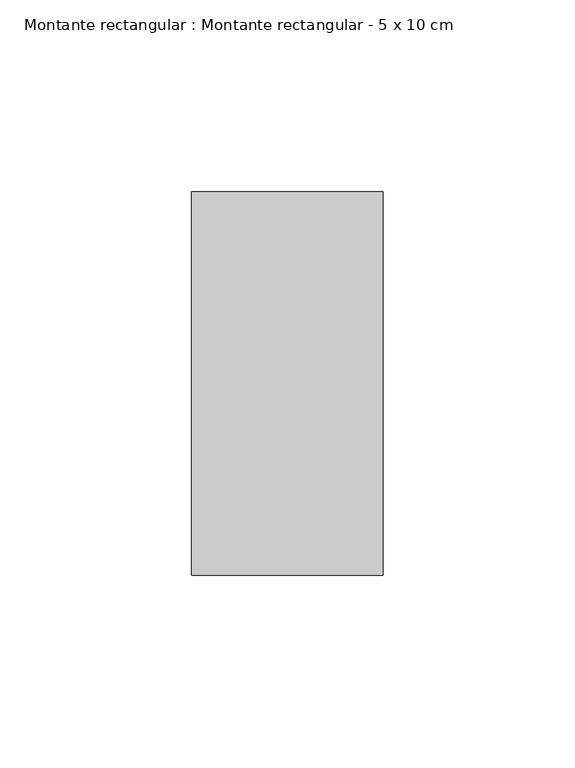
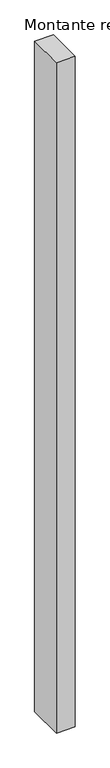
"""IFC4 building model written with IfcOpenShell, lengths in millimetres: member geometry, Montante rectangular : Montante rectangular - 5 x 10 cm."""

import ifcopenshell
import ifcopenshell.guid

model = None  # the IFC model being written
_history = None  # IfcOwnerHistory: only IFC2X3 demands one
_inside = {}  # id of a spatial element -> (the spatial element, [elements in it])
_under = {}  # id of a project, library or spatial element -> (it, [spatial elements below it])
_declared = {}  # id of a project -> (the project, [libraries it declares])
_typed = {}  # id of a type object -> (the type object, [elements of that type])
_made_of = {}  # id of a material, layer set ... -> (it, [elements and type objects made of it])


def new_model(schema):
    """Start an empty IFC model of exactly this schema.

    Asked for "IFC4X3", IfcOpenShell would pick the latest addendum, in which some entities
    have other attributes; the version numbers below select the first issue.
    IFC2X3 requires an IfcOwnerHistory on every rooted entity: one is made here for all.
    """
    global model, _history
    if schema == "IFC4X3":
        model = ifcopenshell.file(schema_version=(4, 3, 0, 0))
    else:
        model = ifcopenshell.file(schema=schema)
    _inside.clear()
    _under.clear()
    _declared.clear()
    _typed.clear()
    _made_of.clear()
    _history = None
    if model.schema == "IFC2X3":
        org = make("IfcOrganization", Name="unknown")
        user = make(
            "IfcPersonAndOrganization",
            ThePerson=make("IfcPerson", FamilyName="unknown"),
            TheOrganization=org,
        )
        app = make(
            "IfcApplication",
            ApplicationDeveloper=org,
            Version="unknown",
            ApplicationFullName="unknown",
            ApplicationIdentifier="unknown",
        )
        _history = make(
            "IfcOwnerHistory",
            OwningUser=user,
            OwningApplication=app,
            ChangeAction="ADDED",
            CreationDate=0,
        )
    return model


def make(cls, **values):
    """One entity of the class cls with the attributes given. An attribute that is None is left unset."""
    return model.create_entity(
        cls, **{name: value for name, value in values.items() if value is not None}
    )


def rooted(cls, **values):
    """An entity with a GlobalId (a new one), such as an element, a storey or a relation."""
    return make(cls, GlobalId=ifcopenshell.guid.new(), OwnerHistory=_history, **values)


def si_unit(unit_type, name, prefix=None):
    """IfcSIUnit, for example si_unit("LENGTHUNIT", "METRE", prefix="MILLI")."""
    return make("IfcSIUnit", UnitType=unit_type, Prefix=prefix, Name=name)


def assignment(units):
    """IfcUnitAssignment: the units of a project."""
    return None if units is None else make("IfcUnitAssignment", Units=units)


def point(xyz):
    """IfcCartesianPoint."""
    return None if xyz is None else make("IfcCartesianPoint", Coordinates=xyz)


def direction(xyz):
    """IfcDirection."""
    return None if xyz is None else make("IfcDirection", DirectionRatios=xyz)


def frame(location, z_axis=None, x_axis=None):
    """IfcAxis2Placement3D, a coordinate frame: its origin and axes. An axis left out is left unset."""
    return make(
        "IfcAxis2Placement3D",
        Location=point(location),
        Axis=direction(z_axis),
        RefDirection=direction(x_axis),
    )


def origin():
    """The frame at (0, 0, 0) with its axes left unset."""
    return frame((0.0, 0.0, 0.0))


def place(relative_to, where):
    """IfcLocalPlacement: puts the frame where relative to a parent placement (None: the world)."""
    return make(
        "IfcLocalPlacement", PlacementRelTo=relative_to, RelativePlacement=where
    )


def context(
    kind, dimensions, precision=None, world=None, true_north=None, identifier=None
):
    """IfcGeometricRepresentationContext, for example the 3D "Model" context."""
    return make(
        "IfcGeometricRepresentationContext",
        ContextIdentifier=identifier,
        ContextType=kind,
        CoordinateSpaceDimension=dimensions,
        Precision=precision,
        WorldCoordinateSystem=world,
        TrueNorth=true_north,
    )


def project(units=None, contexts=None):
    """IfcProject with its units and contexts."""
    return rooted(
        "IfcProject",
        Name="project",
        RepresentationContexts=contexts,
        UnitsInContext=assignment(units),
    )


def spatial(cls, under=None, at=None, **own):
    """A site, building, storey or space (cls), placed at a placement, below another one or the project."""
    s = rooted(cls, ObjectPlacement=at, **own)
    if under is not None:
        _under.setdefault(under.id(), (under, []))[1].append(s)
    return s


def polyline(points):
    """IfcPolyline through the points."""
    return make("IfcPolyline", Points=[point(p) for p in points])


def outline(outer, holes=None, kind="AREA"):
    """IfcArbitraryClosedProfileDef: a profile drawn as a closed curve; with holes, ...WithVoids."""
    if holes is None:
        return make("IfcArbitraryClosedProfileDef", ProfileType=kind, OuterCurve=outer)
    return make(
        "IfcArbitraryProfileDefWithVoids",
        ProfileType=kind,
        OuterCurve=outer,
        InnerCurves=holes,
    )


def extrude(swept, where, along, depth):
    """IfcExtrudedAreaSolid: the profile swept, set in the frame where, extruded along a direction by depth."""
    return make(
        "IfcExtrudedAreaSolid",
        SweptArea=swept,
        Position=where,
        ExtrudedDirection=direction(along),
        Depth=depth,
    )


def shape(context_of_items, identifier, shape_type, items):
    """IfcShapeRepresentation: the items that make up one representation, for example the "Body"."""
    return make(
        "IfcShapeRepresentation",
        ContextOfItems=context_of_items,
        RepresentationIdentifier=identifier,
        RepresentationType=shape_type,
        Items=items,
    )


def source(mapping_origin, context_of_items, identifier, shape_type, items):
    """IfcRepresentationMap: a shape defined once, which mapped items show again and again."""
    return make(
        "IfcRepresentationMap",
        MappingOrigin=mapping_origin,
        MappedRepresentation=shape(context_of_items, identifier, shape_type, items),
    )


def transform(
    local_origin,
    x_axis=None,
    y_axis=None,
    z_axis=None,
    scale=None,
    scale2=None,
    scale3=None,
    uniform=True,
):
    """IfcCartesianTransformationOperator3D, or its non-uniform kind. x_axis, y_axis, z_axis: its Axis1, 2, 3."""
    if uniform:
        return make(
            "IfcCartesianTransformationOperator3D",
            Axis1=direction(x_axis),
            Axis2=direction(y_axis),
            LocalOrigin=point(local_origin),
            Scale=scale,
            Axis3=direction(z_axis),
        )
    return make(
        "IfcCartesianTransformationOperator3DnonUniform",
        Axis1=direction(x_axis),
        Axis2=direction(y_axis),
        LocalOrigin=point(local_origin),
        Scale=scale,
        Axis3=direction(z_axis),
        Scale2=scale2,
        Scale3=scale3,
    )


def mapped(mapping_source, mapping_target):
    """IfcMappedItem: shows the shape of a source again, moved by a transform."""
    return make(
        "IfcMappedItem", MappingSource=mapping_source, MappingTarget=mapping_target
    )


def made_of(thing, what):
    """Note that an element or type object is made of a material, layer set ...; save() writes the relation."""
    if what is not None:
        _made_of.setdefault(what.id(), (what, []))[1].append(thing)
    return thing


def element(
    cls,
    number,
    at=None,
    inside=None,
    cuts=None,
    type_object=None,
    material=None,
    context=None,
    identifier="Body",
    shape_type=None,
    held_by="IfcProductDefinitionShape",
    body=None,
    shapes=None,
    **own,
):
    """One element of the class cls, such as IfcWall. Its Tag is "e" and its number.

    at: its placement. inside: the storey or other place that contains it. cuts: it is an
    opening in that element (IfcRelVoidsElement). A single representation is given by context,
    identifier, shape_type and body (its items); several are given by shapes. held_by: the class
    of the entity that holds the representations. save() writes the other relations.
    """
    e = rooted(cls, Tag="e%d" % number, ObjectPlacement=at, **own)
    if body is not None:
        shapes = [shape(context, identifier, shape_type, body)]
    if shapes is not None:
        e.Representation = make(held_by, Representations=shapes)
    if inside is not None:
        _inside.setdefault(inside.id(), (inside, []))[1].append(e)
    if cuts is not None:
        rooted(
            "IfcRelVoidsElement", RelatingBuildingElement=cuts, RelatedOpeningElement=e
        )
    if type_object is not None:
        _typed.setdefault(type_object.id(), (type_object, []))[1].append(e)
    return made_of(e, material)


def aggregate(whole, parts):
    """IfcRelAggregates: a whole, such as a stair, and the parts it consists of."""
    return rooted("IfcRelAggregates", RelatingObject=whole, RelatedObjects=parts)


def save(model, path):
    """Write the relations noted so far, then the file.

    IfcRelAggregates (storeys below a building ...), IfcRelContainedInSpatialStructure (elements
    in a storey), IfcRelDefinesByType, IfcRelAssociatesMaterial and IfcRelDeclares: one each for
    every whole, place, type object, material and project.
    """
    for whole, parts in _under.values():
        aggregate(whole, parts)
    for where, things in _inside.values():
        rooted(
            "IfcRelContainedInSpatialStructure",
            RelatedElements=things,
            RelatingStructure=where,
        )
    for kind, things in _typed.values():
        rooted("IfcRelDefinesByType", RelatedObjects=things, RelatingType=kind)
    for what, things in _made_of.values():
        rooted("IfcRelAssociatesMaterial", RelatedObjects=things, RelatingMaterial=what)
    for by, libraries in _declared.values():
        rooted("IfcRelDeclares", RelatingContext=by, RelatedDefinitions=libraries)
    model.write(path)


def montante_rectangular_montante_rectangular_5_x_10_cm_a847de27(model_context):
    return source(origin(), model_context, "Body", "SweptSolid", [
        extrude(outline(polyline([(25.0, 50.0), (25.0, -50.0), (-25.0, -50.0), (-25.0, 50.0), (25.0, 50.0)])), frame((0.0, 0.0, -1888.5295387), z_axis=(0.0, 0.0, 1.0), x_axis=(1.0, 0.0, 0.0)), (0.0, 0.0, 1.0), 1888.5295387),
    ])


if __name__ == "__main__":
    model = new_model("IFC4")
    model_context = context("Model", 3, world=origin())
    ifc_project = project(units=[si_unit("LENGTHUNIT", "METRE", prefix="MILLI")], contexts=[model_context])
    site = spatial("IfcSite", under=ifc_project)
    building = spatial("IfcBuilding", under=site)
    placement = place(None, origin())
    montante_rectangular_montante_rectangular_5_x_10_cm_shape = montante_rectangular_montante_rectangular_5_x_10_cm_a847de27(model_context)
    element("IfcMember", 1, ObjectType="Montante rectangular : Montante rectangular - 5 x 10 cm", at=placement, inside=building, context=model_context, shape_type="MappedRepresentation", body=[
        mapped(montante_rectangular_montante_rectangular_5_x_10_cm_shape, transform((0.0, 0.0, 0.0), x_axis=(1.0, 0.0, 0.0), y_axis=(0.0, 1.0, 0.0), z_axis=(0.0, 0.0, 1.0))),
    ])
    save(model, "model.ifc")
